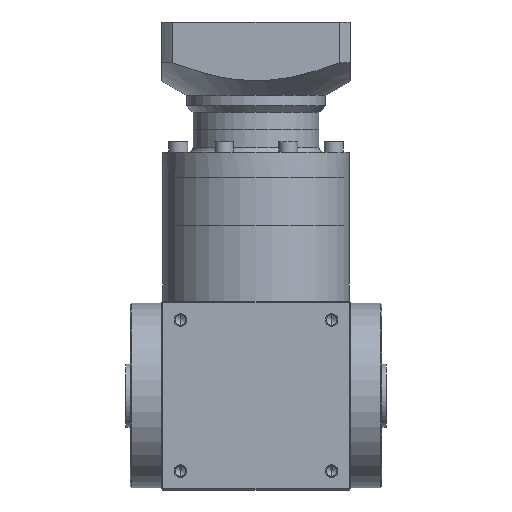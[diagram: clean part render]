
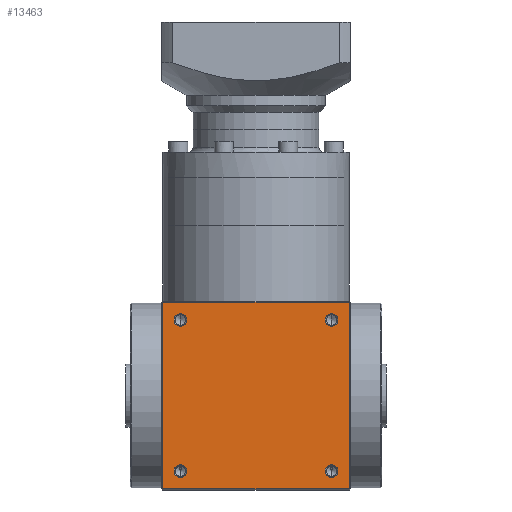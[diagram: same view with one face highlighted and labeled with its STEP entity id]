
A CAD part, front view. The second image highlights one B-rep face of the part: STEP entity #13463.
In plain terms, the highlighted planar face has unit normal (0, -1, 0).
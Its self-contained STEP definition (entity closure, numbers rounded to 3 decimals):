
#591 = VERTEX_POINT ( 'NONE', #47432 ) ;
#800 = EDGE_LOOP ( 'NONE', ( #16078, #48664 ) ) ;
#1241 = CARTESIAN_POINT ( 'NONE',  ( 36., -45., 84.025 ) ) ;
#1627 = CARTESIAN_POINT ( 'NONE',  ( 36., -45., 12.025 ) ) ;
#2954 = CARTESIAN_POINT ( 'NONE',  ( 44.5, -45., 90. ) ) ;
#2982 = DIRECTION ( 'NONE',  ( 0., -1., 0. ) ) ;
#4128 = EDGE_LOOP ( 'NONE', ( #41569, #5146, #9694, #50917 ) ) ;
#5146 = ORIENTED_EDGE ( 'NONE', *, *, #45561, .F. ) ;
#5264 = VERTEX_POINT ( 'NONE', #16595 ) ;
#5837 = EDGE_CURVE ( 'NONE', #40186, #6117, #51890, .T. ) ;
#6117 = VERTEX_POINT ( 'NONE', #1241 ) ;
#7029 = ORIENTED_EDGE ( 'NONE', *, *, #20135, .F. ) ;
#7635 = AXIS2_PLACEMENT_3D ( 'NONE', #49540, #49490, #49428 ) ;
#8084 = CIRCLE ( 'NONE', #45902, 3.025 ) ;
#8381 = VECTOR ( 'NONE', #27855, 1000. ) ;
#8387 = EDGE_CURVE ( 'NONE', #13470, #23820, #9730, .T. ) ;
#8721 = CARTESIAN_POINT ( 'NONE',  ( -44.5, -45., 90. ) ) ;
#9532 = EDGE_CURVE ( 'NONE', #38591, #5264, #15992, .T. ) ;
#9694 = ORIENTED_EDGE ( 'NONE', *, *, #8387, .F. ) ;
#9730 = LINE ( 'NONE', #28194, #8381 ) ;
#12817 = DIRECTION ( 'NONE',  ( 0., -1., 0. ) ) ;
#13005 = EDGE_CURVE ( 'NONE', #24588, #31460, #48417, .T. ) ;
#13463 = ADVANCED_FACE ( 'NONE', ( #52505, #52177, #52097, #52720, #52323 ), #35592, .F. ) ;
#13470 = VERTEX_POINT ( 'NONE', #35312 ) ;
#14951 = EDGE_CURVE ( 'NONE', #6117, #40186, #27211, .T. ) ;
#15176 = EDGE_CURVE ( 'NONE', #38431, #48009, #22468, .T. ) ;
#15992 = CIRCLE ( 'NONE', #44393, 3.025 ) ;
#16078 = ORIENTED_EDGE ( 'NONE', *, *, #5837, .F. ) ;
#16595 = CARTESIAN_POINT ( 'NONE',  ( 36., -45., 5.975 ) ) ;
#16832 = EDGE_LOOP ( 'NONE', ( #19411, #33085 ) ) ;
#18212 = CIRCLE ( 'NONE', #42030, 3.025 ) ;
#19411 = ORIENTED_EDGE ( 'NONE', *, *, #30224, .F. ) ;
#20135 = EDGE_CURVE ( 'NONE', #31460, #24588, #45490, .T. ) ;
#20908 = EDGE_LOOP ( 'NONE', ( #7029, #35156 ) ) ;
#20911 = DIRECTION ( 'NONE',  ( -1., 0., 0. ) ) ;
#22004 = VECTOR ( 'NONE', #20911, 1000. ) ;
#22468 = LINE ( 'NONE', #43658, #22004 ) ;
#22547 = CARTESIAN_POINT ( 'NONE',  ( -36., -45., 9. ) ) ;
#22553 = DIRECTION ( 'NONE',  ( 0., -1., 0. ) ) ;
#22593 = CARTESIAN_POINT ( 'NONE',  ( 36., -45., 81. ) ) ;
#23820 = VERTEX_POINT ( 'NONE', #31989 ) ;
#24588 = VERTEX_POINT ( 'NONE', #45590 ) ;
#25018 = CARTESIAN_POINT ( 'NONE',  ( 36., -45., 9. ) ) ;
#26728 = DIRECTION ( 'NONE',  ( 0., 0., -1. ) ) ;
#27211 = CIRCLE ( 'NONE', #49510, 3.025 ) ;
#27577 = AXIS2_PLACEMENT_3D ( 'NONE', #22547, #50859, #26728 ) ;
#27855 = DIRECTION ( 'NONE',  ( 1., 0., 0. ) ) ;
#28194 = CARTESIAN_POINT ( 'NONE',  ( -45., -45., 89.5 ) ) ;
#28323 = CARTESIAN_POINT ( 'NONE',  ( -36., -45., 81. ) ) ;
#28587 = DIRECTION ( 'NONE',  ( 0., 0., -1. ) ) ;
#28744 = CARTESIAN_POINT ( 'NONE',  ( 36., -45., 81. ) ) ;
#29100 = DIRECTION ( 'NONE',  ( 0., 0., -1. ) ) ;
#30224 = EDGE_CURVE ( 'NONE', #591, #32659, #8084, .T. ) ;
#31460 = VERTEX_POINT ( 'NONE', #44923 ) ;
#31811 = DIRECTION ( 'NONE',  ( 0., -1., 0. ) ) ;
#31943 = AXIS2_PLACEMENT_3D ( 'NONE', #35816, #35482, #35421 ) ;
#31989 = CARTESIAN_POINT ( 'NONE',  ( 44.5, -45., 89.5 ) ) ;
#32447 = DIRECTION ( 'NONE',  ( 0., 0., -1. ) ) ;
#32659 = VERTEX_POINT ( 'NONE', #45432 ) ;
#33085 = ORIENTED_EDGE ( 'NONE', *, *, #52496, .F. ) ;
#33291 = LINE ( 'NONE', #8721, #34443 ) ;
#33803 = DIRECTION ( 'NONE',  ( 0., 0., 1. ) ) ;
#34443 = VECTOR ( 'NONE', #33803, 1000. ) ;
#35156 = ORIENTED_EDGE ( 'NONE', *, *, #13005, .F. ) ;
#35312 = CARTESIAN_POINT ( 'NONE',  ( -44.5, -45., 89.5 ) ) ;
#35421 = DIRECTION ( 'NONE',  ( 0., 0., 1. ) ) ;
#35482 = DIRECTION ( 'NONE',  ( 0., 1., 0. ) ) ;
#35592 = PLANE ( 'NONE',  #31943 ) ;
#35816 = CARTESIAN_POINT ( 'NONE',  ( -45., -45., 90. ) ) ;
#36216 = VECTOR ( 'NONE', #36499, 1000. ) ;
#36270 = LINE ( 'NONE', #2954, #36216 ) ;
#36406 = DIRECTION ( 'NONE',  ( 0., 0., -1. ) ) ;
#36427 = DIRECTION ( 'NONE',  ( 0., -1., 0. ) ) ;
#36472 = CARTESIAN_POINT ( 'NONE',  ( 36., -45., 9. ) ) ;
#36499 = DIRECTION ( 'NONE',  ( 0., 0., -1. ) ) ;
#36643 = CARTESIAN_POINT ( 'NONE',  ( 36., -45., 77.975 ) ) ;
#37746 = CARTESIAN_POINT ( 'NONE',  ( -36., -45., 9. ) ) ;
#37991 = ORIENTED_EDGE ( 'NONE', *, *, #44866, .F. ) ;
#38431 = VERTEX_POINT ( 'NONE', #50308 ) ;
#38591 = VERTEX_POINT ( 'NONE', #1627 ) ;
#38745 = CARTESIAN_POINT ( 'NONE',  ( -44.5, -45., 0.5 ) ) ;
#40186 = VERTEX_POINT ( 'NONE', #36643 ) ;
#40392 = ORIENTED_EDGE ( 'NONE', *, *, #9532, .F. ) ;
#41569 = ORIENTED_EDGE ( 'NONE', *, *, #15176, .F. ) ;
#41827 = DIRECTION ( 'NONE',  ( 0., 0., -1. ) ) ;
#42030 = AXIS2_PLACEMENT_3D ( 'NONE', #25018, #53134, #29100 ) ;
#43658 = CARTESIAN_POINT ( 'NONE',  ( -45., -45., 0.5 ) ) ;
#44393 = AXIS2_PLACEMENT_3D ( 'NONE', #36472, #36427, #36406 ) ;
#44866 = EDGE_CURVE ( 'NONE', #5264, #38591, #18212, .T. ) ;
#44923 = CARTESIAN_POINT ( 'NONE',  ( -36., -45., 77.975 ) ) ;
#45432 = CARTESIAN_POINT ( 'NONE',  ( -36., -45., 12.025 ) ) ;
#45490 = CIRCLE ( 'NONE', #47034, 3.025 ) ;
#45561 = EDGE_CURVE ( 'NONE', #23820, #38431, #36270, .T. ) ;
#45590 = CARTESIAN_POINT ( 'NONE',  ( -36., -45., 84.025 ) ) ;
#45902 = AXIS2_PLACEMENT_3D ( 'NONE', #37746, #12817, #41827 ) ;
#46150 = AXIS2_PLACEMENT_3D ( 'NONE', #28744, #31811, #28587 ) ;
#46255 = EDGE_LOOP ( 'NONE', ( #37991, #40392 ) ) ;
#47034 = AXIS2_PLACEMENT_3D ( 'NONE', #28323, #2982, #32447 ) ;
#47432 = CARTESIAN_POINT ( 'NONE',  ( -36., -45., 5.975 ) ) ;
#48009 = VERTEX_POINT ( 'NONE', #38745 ) ;
#48417 = CIRCLE ( 'NONE', #7635, 3.025 ) ;
#48664 = ORIENTED_EDGE ( 'NONE', *, *, #14951, .F. ) ;
#48735 = DIRECTION ( 'NONE',  ( 0., 0., -1. ) ) ;
#49128 = EDGE_CURVE ( 'NONE', #48009, #13470, #33291, .T. ) ;
#49428 = DIRECTION ( 'NONE',  ( 0., 0., -1. ) ) ;
#49490 = DIRECTION ( 'NONE',  ( 0., -1., 0. ) ) ;
#49510 = AXIS2_PLACEMENT_3D ( 'NONE', #22593, #22553, #48735 ) ;
#49540 = CARTESIAN_POINT ( 'NONE',  ( -36., -45., 81. ) ) ;
#50308 = CARTESIAN_POINT ( 'NONE',  ( 44.5, -45., 0.5 ) ) ;
#50859 = DIRECTION ( 'NONE',  ( 0., -1., 0. ) ) ;
#50917 = ORIENTED_EDGE ( 'NONE', *, *, #49128, .F. ) ;
#51249 = CIRCLE ( 'NONE', #27577, 3.025 ) ;
#51890 = CIRCLE ( 'NONE', #46150, 3.025 ) ;
#52097 = FACE_BOUND ( 'NONE', #46255, .T. ) ;
#52177 = FACE_BOUND ( 'NONE', #20908, .T. ) ;
#52323 = FACE_OUTER_BOUND ( 'NONE', #4128, .T. ) ;
#52496 = EDGE_CURVE ( 'NONE', #32659, #591, #51249, .T. ) ;
#52505 = FACE_BOUND ( 'NONE', #800, .T. ) ;
#52720 = FACE_BOUND ( 'NONE', #16832, .T. ) ;
#53134 = DIRECTION ( 'NONE',  ( 0., -1., 0. ) ) ;
